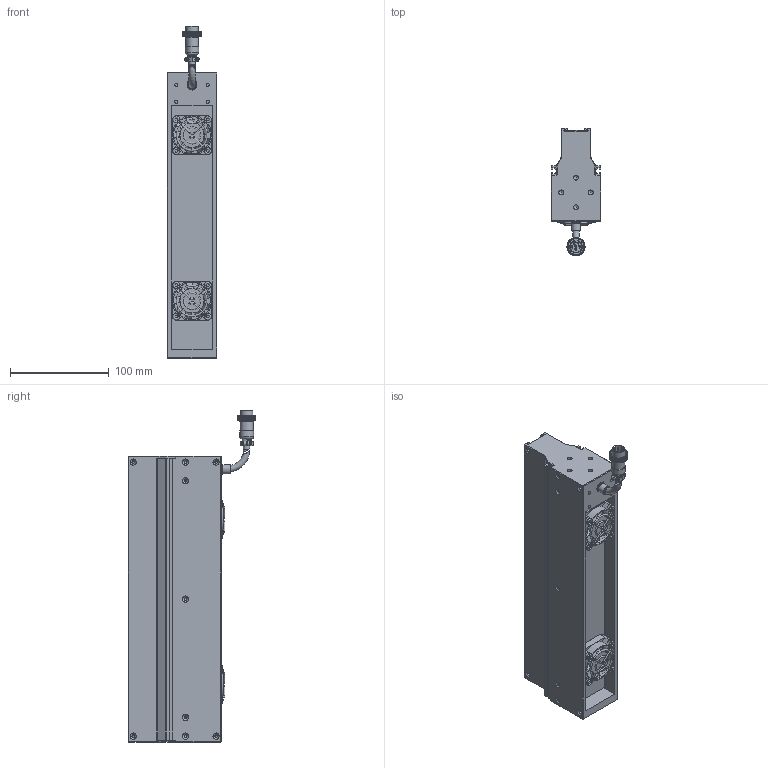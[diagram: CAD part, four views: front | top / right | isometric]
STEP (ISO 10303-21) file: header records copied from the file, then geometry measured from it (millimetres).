
FILE_DESCRIPTION (( 'STEP AP203' ), '1' );
FILE_NAME ('OPT-LSS290-R-V3.1U尨砩芞.STEP', '2025-01-21T00:34:59', ( 'USER' ), ( '' ), 'SwSTEP 2.0', 'SolidWorks 2016', '' );
FILE_SCHEMA (( 'CONFIG_CONTROL_DESIGN' ));
Products named in the file (2): OPT-LSS290-R-V3.1U尨砩芞
Bounding box: 50 x 129.15 x 336.83 mm (x, y, z)
Volume: 975018.5 mm3; surface area: 169146.4 mm2
Topology: 14 solids, 26 shells, 3740 faces, 8255 edges, 4632 vertices
Faces by surface type: bspline 2113, cylinder 768, plane 688, torus 118, cone 53
Full cylindrical faces by diameter (mm): 0.95 x6, 1.1 x2, 1.4 x2, 1.6 x8, 2 x6, 2.5 x18, 3.2 x12, 3.4 x18, 4 x8, 5 x8, 6.2 x8, 6.4 x3, 7.5 x1, 8.6 x1, 9.3 x1, 9.8 x1, 10 x1, 13.2 x1, 14 x1, 16.1 x1, 24.8 x2, 38 x2
Entity records: 125849 total; most frequent: CARTESIAN_POINT 63405, ORIENTED_EDGE 15954, EDGE_CURVE 7977, DIRECTION 6322, B_SPLINE_CURVE_WITH_KNOTS 5588, VERTEX_POINT 4570, EDGE_LOOP 4055, FACE_OUTER_BOUND 3895
